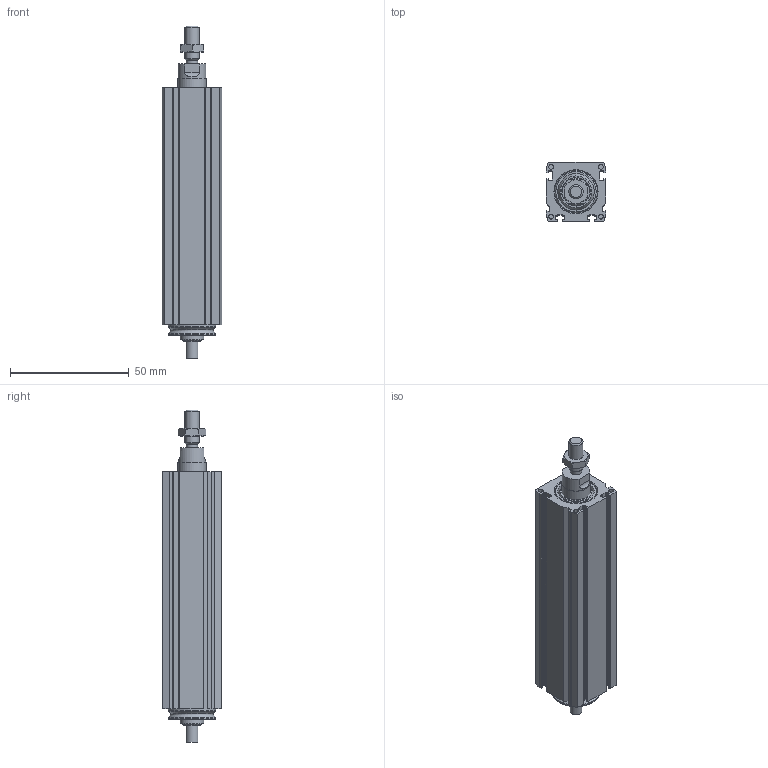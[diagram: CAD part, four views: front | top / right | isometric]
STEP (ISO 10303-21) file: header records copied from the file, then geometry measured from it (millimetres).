
FILE_DESCRIPTION(/* description */ ('STEP AP214'),/* implementation_level */ '2;1');
FILE_NAME(/* name */ 'MCE 25 0602 50 0(0)',/* time_stamp */ '2023-10-05T12:56:34+02:00',/* author */ ('License CC BY-ND 4.0'),/* organization */ ('CADENAS'),/* preprocessor_version */ 'ST-DEVELOPER v19.3',/* originating_system */ 'PARTsolutions',/* authorisation */ ' ');
FILE_SCHEMA (('AUTOMOTIVE_DESIGN {1 0 10303 214 3 1 1}'));
Length unit declared in the file: millimetre
Products named in the file (4): MCE 25 0602 50  0(0); 25_nut; 25(500)_rod; 25(50)_msc
Assembly tree (3 placements, depth 2):
  MCE 25 0602 50  0(0)
    25_nut
    25(500)_rod
    25(50)_msc
Bounding box: 25 x 25 x 140 mm (x, y, z)
Volume: 51931 mm3; surface area: 27239 mm2
Topology: 3 solids, 3 shells, 245 faces, 623 edges, 406 vertices
Faces by surface type: plane 110, cylinder 108, cone 23, torus 4
Full cylindrical faces by diameter (mm): 2.013 x8, 4.8 x1, 4.917 x1, 5 x1, 6 x1, 8 x1, 10 x1, 11.8 x1, 12 x2, 14.7 x1, 15.4 x1, 18 x1, 19 x2, 20 x2
Entity records: 7373 total; most frequent: CARTESIAN_POINT 1327, DIRECTION 1300, ORIENTED_EDGE 1164, EDGE_CURVE 582, AXIS2_PLACEMENT_3D 495, VERTEX_POINT 404, LINE 310, VECTOR 310
